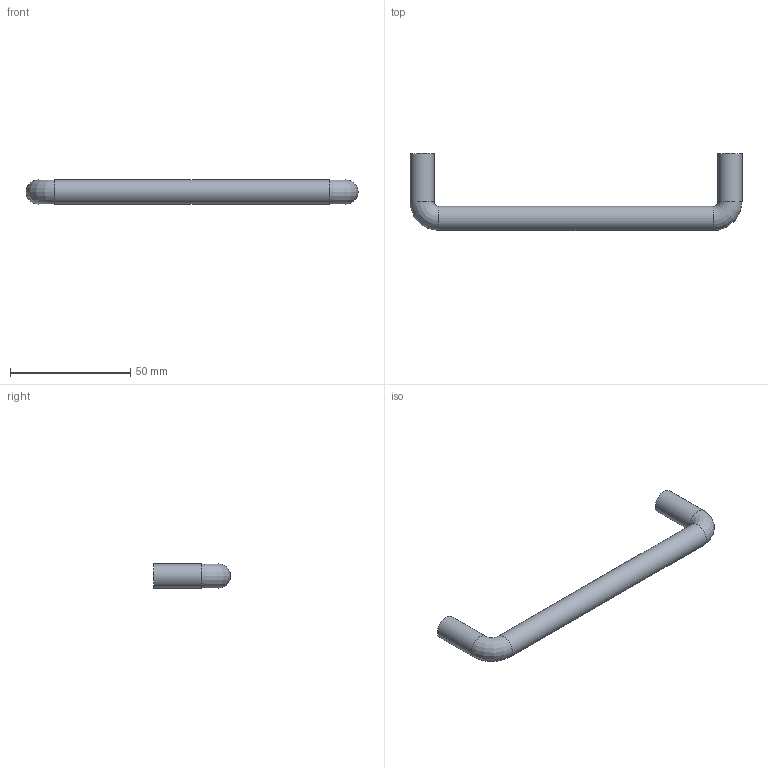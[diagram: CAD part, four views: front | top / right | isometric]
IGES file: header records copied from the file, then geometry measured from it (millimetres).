
Start section: Data from Parasolid IGES Translator 15.0.47, Copyright(c) 2006 Siemens P LM Software. All Rights Reserved.
Global section: file name: 9069818.igs; native system:  By UGS Corp.; preprocessor: XPlus GENERIC/IGES 3.0; author: Noname; organization: Noname; date: 20140122.155414; units: millimetre
Bounding box: 138 x 32 x 10 mm (x, y, z)
Surface area: 5937.3 mm2 (no closed solid volume)
Topology: 0 solids, 0 shells, 11 faces, 42 edges, 38 vertices
Faces by surface type: revolution 7, extrusion 4
